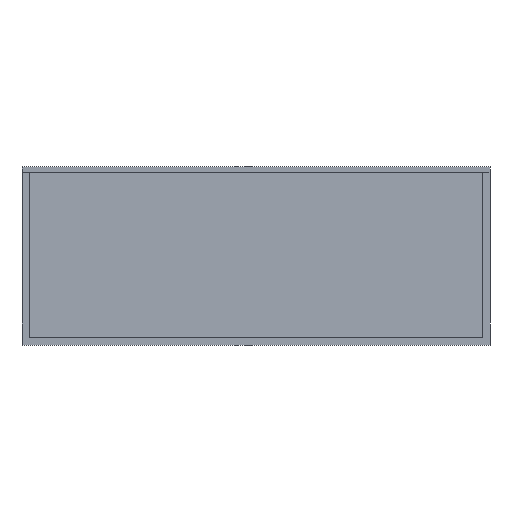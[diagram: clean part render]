
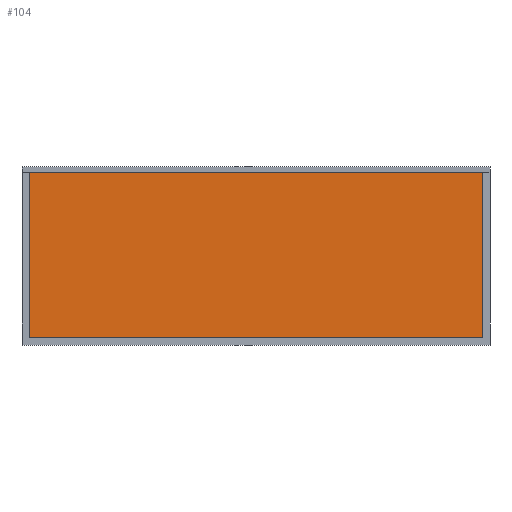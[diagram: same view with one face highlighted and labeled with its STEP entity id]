
A CAD part, left-side view. The second image highlights one B-rep face of the part: STEP entity #104.
In plain terms, the highlighted planar face has unit normal (-1, 0, 0).
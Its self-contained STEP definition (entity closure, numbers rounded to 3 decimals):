
#31 = VERTEX_POINT ( 'NONE', #198 ) ;
#40 = EDGE_CURVE ( 'NONE', #31, #214, #289, .T. ) ;
#104 = ADVANCED_FACE ( 'NONE', ( #477 ), #327, .F. ) ;
#119 = VERTEX_POINT ( 'NONE', #406 ) ;
#123 = ORIENTED_EDGE ( 'NONE', *, *, #642, .T. ) ;
#188 = LINE ( 'NONE', #514, #258 ) ;
#198 = CARTESIAN_POINT ( 'NONE',  ( -12., 126., 0. ) ) ;
#212 = DIRECTION ( 'NONE',  ( 0., 0., -1. ) ) ;
#214 = VERTEX_POINT ( 'NONE', #971 ) ;
#220 = DIRECTION ( 'NONE',  ( 1., 0., 0. ) ) ;
#258 = VECTOR ( 'NONE', #552, 1000. ) ;
#266 = DIRECTION ( 'NONE',  ( 0., 1., 0. ) ) ;
#289 = LINE ( 'NONE', #938, #956 ) ;
#327 = PLANE ( 'NONE',  #531 ) ;
#336 = CARTESIAN_POINT ( 'NONE',  ( -12., 126., 0. ) ) ;
#406 = CARTESIAN_POINT ( 'NONE',  ( -12., -126., -92. ) ) ;
#414 = DIRECTION ( 'NONE',  ( 0., -1., 0. ) ) ;
#469 = ORIENTED_EDGE ( 'NONE', *, *, #605, .T. ) ;
#477 = FACE_OUTER_BOUND ( 'NONE', #651, .T. ) ;
#489 = DIRECTION ( 'NONE',  ( 0., 0., -1. ) ) ;
#514 = CARTESIAN_POINT ( 'NONE',  ( -12., -126., -92. ) ) ;
#531 = AXIS2_PLACEMENT_3D ( 'NONE', #720, #220, #489 ) ;
#550 = ORIENTED_EDGE ( 'NONE', *, *, #916, .T. ) ;
#552 = DIRECTION ( 'NONE',  ( 0., 0., 1. ) ) ;
#605 = EDGE_CURVE ( 'NONE', #214, #119, #752, .T. ) ;
#642 = EDGE_CURVE ( 'NONE', #729, #31, #653, .T. ) ;
#651 = EDGE_LOOP ( 'NONE', ( #802, #469, #550, #123 ) ) ;
#653 = LINE ( 'NONE', #336, #807 ) ;
#720 = CARTESIAN_POINT ( 'NONE',  ( -12., 0., 0. ) ) ;
#729 = VERTEX_POINT ( 'NONE', #992 ) ;
#752 = LINE ( 'NONE', #895, #942 ) ;
#802 = ORIENTED_EDGE ( 'NONE', *, *, #40, .T. ) ;
#807 = VECTOR ( 'NONE', #266, 1000. ) ;
#895 = CARTESIAN_POINT ( 'NONE',  ( -12., 126., -92. ) ) ;
#916 = EDGE_CURVE ( 'NONE', #119, #729, #188, .T. ) ;
#938 = CARTESIAN_POINT ( 'NONE',  ( -12., 126., -92. ) ) ;
#942 = VECTOR ( 'NONE', #414, 1000. ) ;
#956 = VECTOR ( 'NONE', #212, 1000. ) ;
#971 = CARTESIAN_POINT ( 'NONE',  ( -12., 126., -92. ) ) ;
#992 = CARTESIAN_POINT ( 'NONE',  ( -12., -126., 0. ) ) ;
